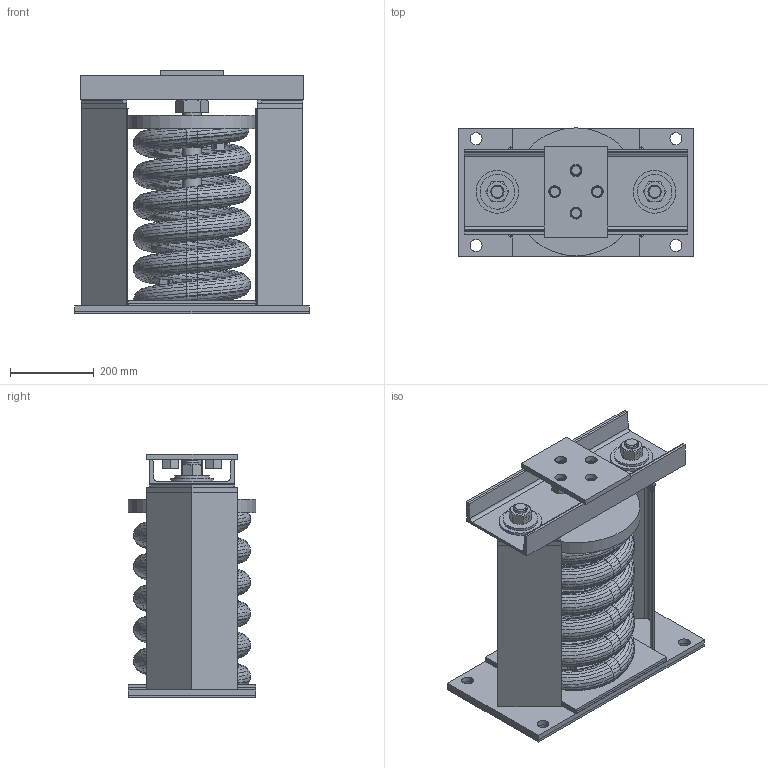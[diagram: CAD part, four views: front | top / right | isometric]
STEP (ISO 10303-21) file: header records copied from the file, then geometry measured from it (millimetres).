
FILE_DESCRIPTION(/* description */ (''),/* implementation_level */ '2;1');
FILE_NAME(/* name */ 'C:\001_Work\Designs\SLR-100 SERIES\SLR 100 SERIES (NON STOCK MOUNTS)\SLR 143\SLR-143.stp',/* time_stamp */ '2016-01-19T14:12:11-05:00',/* author */ ('rramoutar'),/* organization */ ('Mason Industries Inc.'),/* preprocessor_version */ 'ST-DEVELOPER v15.6',/* originating_system */ 'Autodesk Inventor 2015',/* authorisation */ '');
FILE_SCHEMA (('CONFIG_CONTROL_DESIGN'));
Products named in the file (1): SLR-143 PER A-28920
Bounding box: 558.8 x 304.8 x 581.02 mm (x, y, z)
Volume: 13053635.9 mm3; surface area: 3886448.6 mm2
Topology: 38 solids, 38 shells, 970 faces, 2082 edges, 1193 vertices
Faces by surface type: bspline 490, plane 279, cone 122, cylinder 77, torus 2
Full cylindrical faces by diameter (mm): 9.525 x2, 12.7 x1, 21.971 x4, 27.813 x2, 28.575 x12, 31.75 x2, 33.337 x4, 38.964 x1, 40.894 x1, 44.45 x3, 46.037 x1, 47.625 x2, 48.26 x1, 50.8 x2, 57.15 x2, 82.55 x2, 101.6 x2, 304.8 x1
Entity records: 46002 total; most frequent: CARTESIAN_POINT 28492, ORIENTED_EDGE 3970, DIRECTION 2040, EDGE_CURVE 1985, VERTEX_POINT 1163, EDGE_LOOP 1104, STYLED_ITEM 1008, B_SPLINE_CURVE_WITH_KNOTS 992
